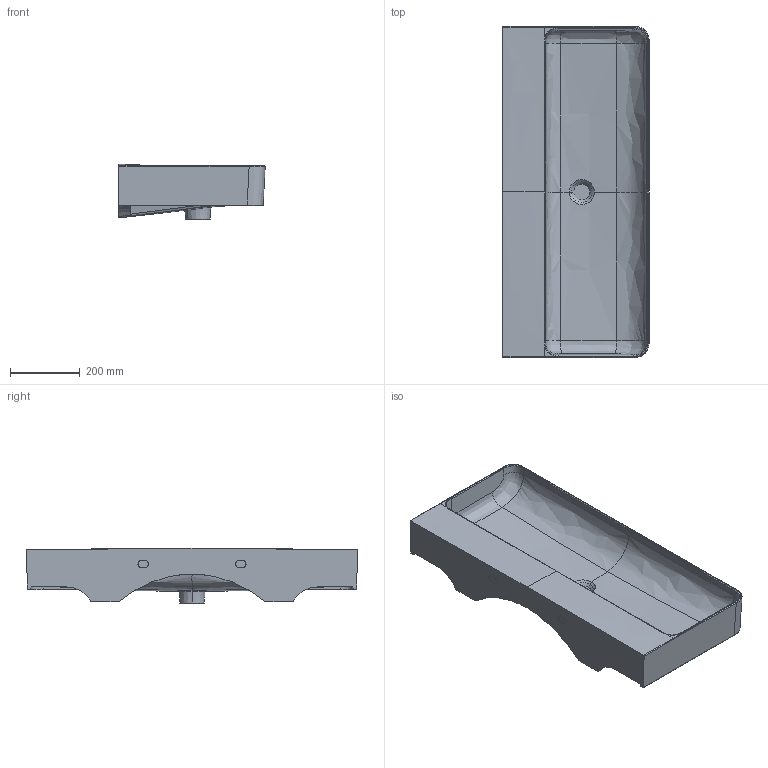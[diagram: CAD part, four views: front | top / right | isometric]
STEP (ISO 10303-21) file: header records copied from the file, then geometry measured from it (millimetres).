
FILE_DESCRIPTION(('CATIA V5 STEP'),'2;1');
FILE_NAME('G:\Laufen Similor\TPM-K\TPE\JStöckli\BIM\VAL\10287\HY10287BIM.stp','2017-01-20T13:21:42+00:00',('none'),('none'),'CATIA Version 5 Release 19 SP 9 (IN-10)','CATIA V5 STEP AP203','none');
FILE_SCHEMA(('CONFIG_CONTROL_DESIGN'));
Length unit declared in the file: millimetre
Products named in the file (1): HY10287BIM
Bounding box: 419.95 x 949.91 x 158.97 mm (x, y, z)
Volume: 14597269.8 mm3; surface area: 1439290.9 mm2
Topology: 1 solids, 1 shells, 142 faces, 386 edges, 250 vertices
Faces by surface type: bspline 76, plane 39, cylinder 16, cone 6, torus 4, extrusion 1
Entity records: 18007 total; most frequent: CARTESIAN_POINT 15252, ORIENTED_EDGE 756, EDGE_CURVE 378, B_SPLINE_CURVE_WITH_KNOTS 242, VERTEX_POINT 241, DIRECTION 227, EDGE_LOOP 145, ADVANCED_FACE 142
